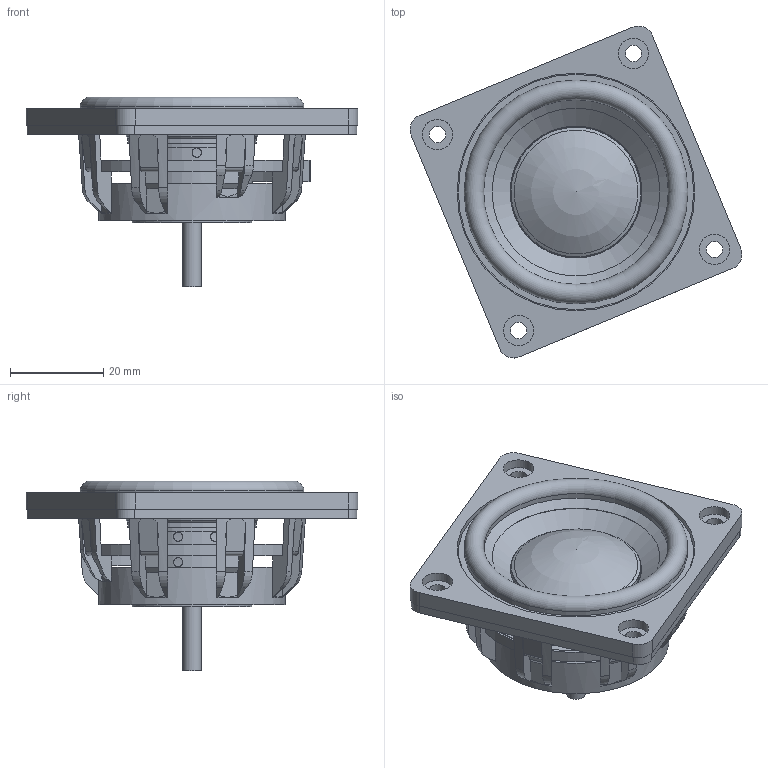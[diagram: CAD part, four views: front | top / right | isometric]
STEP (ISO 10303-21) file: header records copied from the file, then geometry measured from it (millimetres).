
FILE_DESCRIPTION(/* description */ (''),/* implementation_level */ '2;1');
FILE_NAME(/* name */ 'DMA58-PR.step',/* time_stamp */ '2026-07-22T17:54:12-04:00',/* author */ (''),/* organization */ (''),/* preprocessor_version */ 'ST-DEVELOPER v20.1',/* originating_system */ 'Autodesk Translation Framework v15.8.0.0',/* authorisation */ '');
FILE_SCHEMA (('AUTOMOTIVE_DESIGN { 1 0 10303 214 3 1 1 }'));
Length unit declared in the file: millimetre
Products named in the file (4): 2026-07-22-17-52-20-020; EVA; 5656FANFXINGZHIJIA; 2026-07-22-17-35-48-665
Assembly tree (3 placements, depth 3):
  2026-07-22-17-52-20-020
    EVA
    5656FANFXINGZHIJIA
      2026-07-22-17-35-48-665
Bounding box: 71.21 x 71.21 x 40.7 mm (x, y, z)
Volume: 21776.5 mm3; surface area: 28241.2 mm2
Topology: 2 solids, 5 shells, 336 faces, 934 edges, 602 vertices
Faces by surface type: plane 145, cylinder 102, cone 41, torus 26, bspline 20, sphere 2
Full cylindrical faces by diameter (mm): 2 x15, 3.5 x4, 3.908 x1, 4 x4, 6.5 x4, 25.5 x2, 25.65 x2, 26.56 x1, 27.56 x1, 28 x1, 30 x1, 35 x1, 39.597 x1, 40 x1, 40.199 x1, 44 x1, 45 x1, 47 x1, 47.398 x1, 48 x1, 50 x2, 50.5 x1, 51 x1
Entity records: 14435 total; most frequent: CARTESIAN_POINT 5801, ORIENTED_EDGE 1864, DIRECTION 1752, EDGE_CURVE 932, AXIS2_PLACEMENT_3D 695, VERTEX_POINT 602, EDGE_LOOP 392, LINE 362
